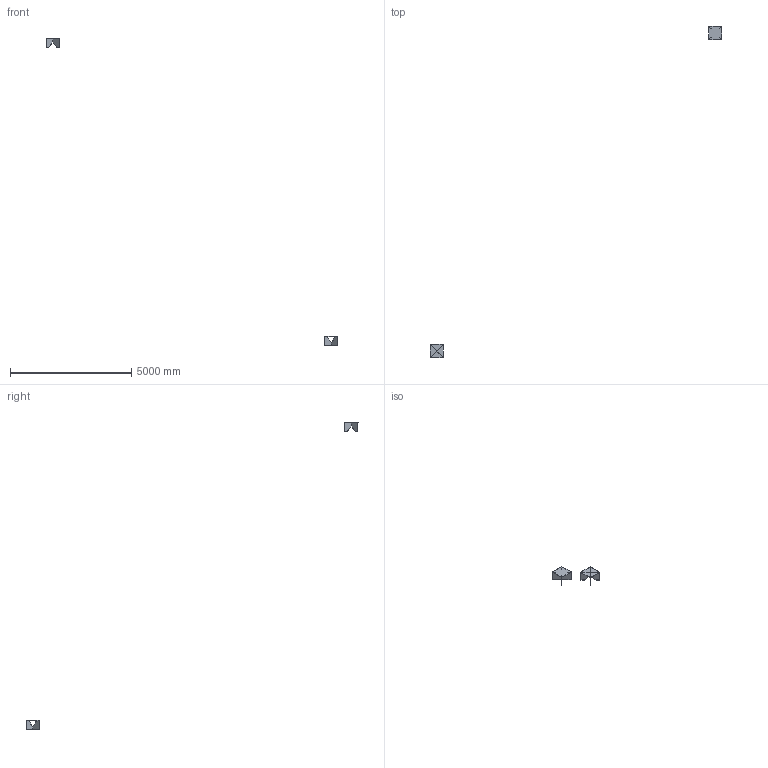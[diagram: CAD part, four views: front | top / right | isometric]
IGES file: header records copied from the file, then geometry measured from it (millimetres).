
Global section: file name: N:\e15\ ENTWICKLUNG\E15_PRODUKTE_DWG_DXF\neue_Produkte_2012\FK04_CALVERT\3D\120327_FK04_CALVERT_Isometrie.igs; native system: VectorWorks; preprocessor: HarmonyWare IGES v1.5.9; date: 20120327.124729; units: millimetre
Bounding box: 12028.77 x 13686.06 x 12695.03 mm (x, y, z)
Volume: 18619603.2 mm3; surface area: 3283018.8 mm2
Topology: 6 solids, 6 shells, 72 faces, 180 edges, 120 vertices
Faces by surface type: bspline 72
